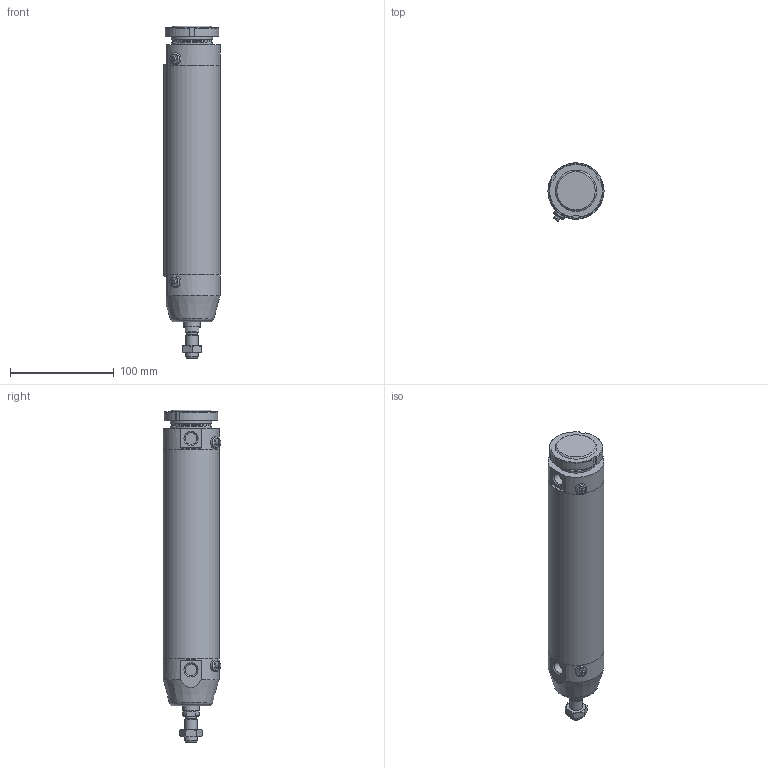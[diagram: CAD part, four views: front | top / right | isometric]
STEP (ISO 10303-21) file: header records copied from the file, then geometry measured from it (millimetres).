
FILE_DESCRIPTION(/* description */ (''),/* implementation_level */ '2;1');
FILE_NAME(/* name */ 'I:\Area Tecnica\Documenti\A-Manieri\_Inventor\12X\12X#B_###_####_#_#\12XBB_050_0160_#_#.stp',/* time_stamp */ '2015-04-28T14:28:55+02:00',/* author */ ('maniean1'),/* organization */ ('Pneumax S.p.A.'),/* preprocessor_version */ 'ST-DEVELOPER v15.2',/* originating_system */ 'Autodesk Inventor 2014',/* authorisation */ '');
FILE_SCHEMA (('AUTOMOTIVE_DESIGN { 1 0 10303 214 3 1 1 }'));
Length unit declared in the file: millimetre
Products named in the file (7): C1250_619-0160; 12X50_614; S12X50_0160; 12X_50_11; 12X50_621; G12X_050_05; 12XBB_050_0160_#_#
Bounding box: 54 x 55.88 x 320 mm (x, y, z)
Volume: 351994.6 mm3; surface area: 117701 mm2
Topology: 6 solids, 6 shells, 98 faces, 217 edges, 140 vertices
Faces by surface type: plane 52, cylinder 24, cone 19, torus 3
Full cylindrical faces by diameter (mm): 5 x2, 10.2 x1, 11 x2, 11.4 x2, 12 x2, 14 x1, 15.6 x1, 16 x1, 38.2 x1, 40 x3, 50 x2, 54 x3
Entity records: 2646 total; most frequent: CARTESIAN_POINT 539, DIRECTION 439, ORIENTED_EDGE 346, AXIS2_PLACEMENT_3D 186, EDGE_CURVE 173, EDGE_LOOP 150, VERTEX_POINT 131, ADVANCED_FACE 98
